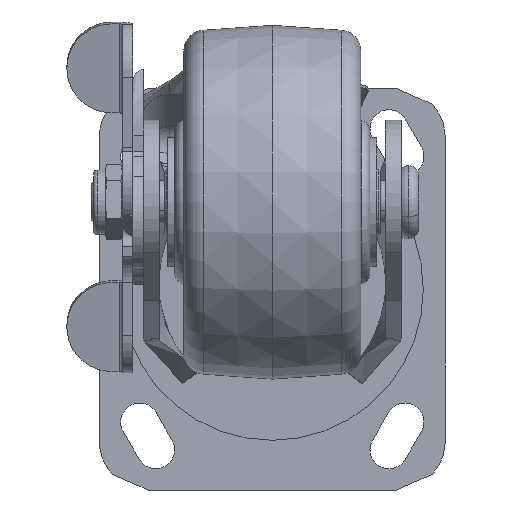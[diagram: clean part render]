
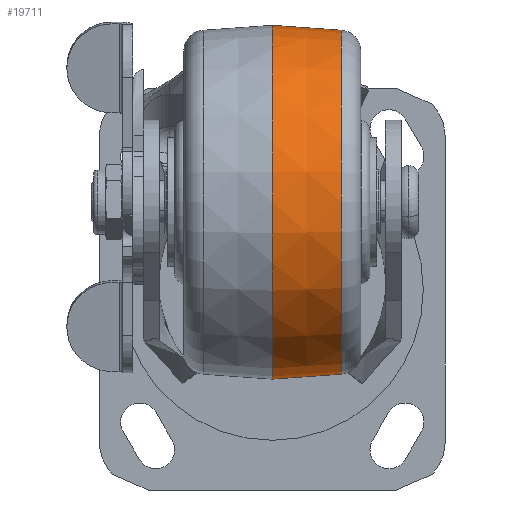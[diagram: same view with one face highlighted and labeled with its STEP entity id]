
A CAD part, front view. The second image highlights one B-rep face of the part: STEP entity #19711.
In plain terms, the highlighted conical face has half-angle 4.083 degrees and reference radius 49.385 mm.
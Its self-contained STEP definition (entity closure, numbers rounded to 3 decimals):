
#409 = DIRECTION ( 'NONE',  ( 0., 0., 1. ) ) ;
#1402 = DIRECTION ( 'NONE',  ( -0.997, 0., 0.071 ) ) ;
#2577 = EDGE_LOOP ( 'NONE', ( #11496, #22436, #15796, #13108 ) ) ;
#2783 = CARTESIAN_POINT ( 'NONE',  ( 19.827, -92.475, -24.385 ) ) ;
#4629 = CIRCLE ( 'NONE', #5732, 50.8 ) ;
#5627 = CARTESIAN_POINT ( 'NONE',  ( 19.827, -92.475, 25. ) ) ;
#5697 = CARTESIAN_POINT ( 'NONE',  ( 0., -92.475, 25. ) ) ;
#5732 = AXIS2_PLACEMENT_3D ( 'NONE', #5697, #10927, #11274 ) ;
#5978 = CARTESIAN_POINT ( 'NONE',  ( 19.827, -92.475, 25. ) ) ;
#6568 = LINE ( 'NONE', #6679, #17885 ) ;
#6679 = CARTESIAN_POINT ( 'NONE',  ( 19.827, -92.475, -24.385 ) ) ;
#7919 = EDGE_CURVE ( 'NONE', #9703, #18361, #6568, .T. ) ;
#8422 = VECTOR ( 'NONE', #1402, 1000. ) ;
#9020 = AXIS2_PLACEMENT_3D ( 'NONE', #5627, #9117, #409 ) ;
#9117 = DIRECTION ( 'NONE',  ( -1., 0., 0. ) ) ;
#9703 = VERTEX_POINT ( 'NONE', #2783 ) ;
#10927 = DIRECTION ( 'NONE',  ( -1., 0., 0. ) ) ;
#11274 = DIRECTION ( 'NONE',  ( 0., 0., 1. ) ) ;
#11496 = ORIENTED_EDGE ( 'NONE', *, *, #7919, .F. ) ;
#13061 = DIRECTION ( 'NONE',  ( -1., 0., 0. ) ) ;
#13108 = ORIENTED_EDGE ( 'NONE', *, *, #16496, .F. ) ;
#13655 = DIRECTION ( 'NONE',  ( -0.997, 0., -0.071 ) ) ;
#13773 = VERTEX_POINT ( 'NONE', #21109 ) ;
#13922 = LINE ( 'NONE', #19027, #8422 ) ;
#14181 = EDGE_CURVE ( 'NONE', #9703, #20388, #21974, .T. ) ;
#15791 = AXIS2_PLACEMENT_3D ( 'NONE', #5978, #13061, #20140 ) ;
#15796 = ORIENTED_EDGE ( 'NONE', *, *, #21101, .T. ) ;
#16496 = EDGE_CURVE ( 'NONE', #18361, #13773, #4629, .T. ) ;
#16541 = CONICAL_SURFACE ( 'NONE', #15791, 49.385, 0.071 ) ;
#17885 = VECTOR ( 'NONE', #13655, 1000. ) ;
#18361 = VERTEX_POINT ( 'NONE', #20616 ) ;
#19027 = CARTESIAN_POINT ( 'NONE',  ( 19.827, -92.475, 74.385 ) ) ;
#19711 = ADVANCED_FACE ( 'NONE', ( #21975 ), #16541, .T. ) ;
#20140 = DIRECTION ( 'NONE',  ( 0., 0., 1. ) ) ;
#20388 = VERTEX_POINT ( 'NONE', #22158 ) ;
#20616 = CARTESIAN_POINT ( 'NONE',  ( 0., -92.475, -25.8 ) ) ;
#21101 = EDGE_CURVE ( 'NONE', #20388, #13773, #13922, .T. ) ;
#21109 = CARTESIAN_POINT ( 'NONE',  ( 0., -92.475, 75.8 ) ) ;
#21974 = CIRCLE ( 'NONE', #9020, 49.385 ) ;
#21975 = FACE_OUTER_BOUND ( 'NONE', #2577, .T. ) ;
#22158 = CARTESIAN_POINT ( 'NONE',  ( 19.827, -92.475, 74.385 ) ) ;
#22436 = ORIENTED_EDGE ( 'NONE', *, *, #14181, .T. ) ;
